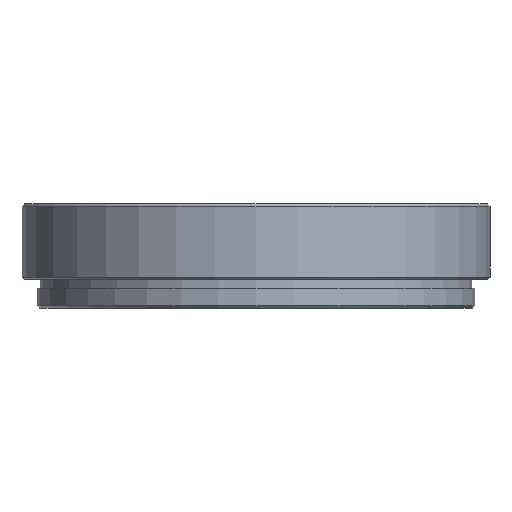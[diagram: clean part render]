
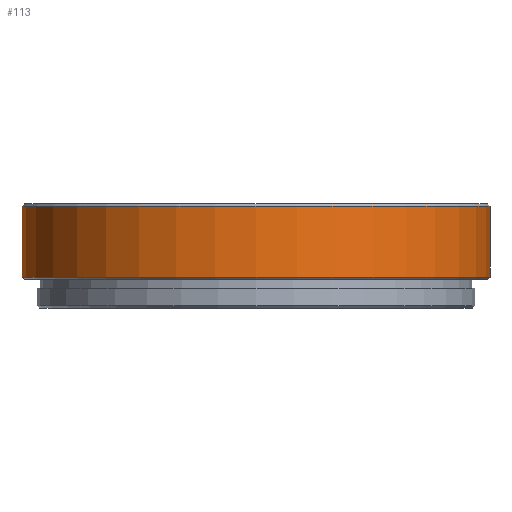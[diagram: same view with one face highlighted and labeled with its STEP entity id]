
A CAD part, front view. The second image highlights one B-rep face of the part: STEP entity #113.
In plain terms, the highlighted cylindrical face has radius 31 mm (diameter 62 mm), a partial arc.
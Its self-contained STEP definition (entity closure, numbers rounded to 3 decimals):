
#13 = DIRECTION ( 'NONE',  ( 0., 0., 1. ) ) ;
#23 = CARTESIAN_POINT ( 'NONE',  ( 0., 0., 4.2 ) ) ;
#60 = CYLINDRICAL_SURFACE ( 'NONE', #683, 31. ) ;
#87 = EDGE_CURVE ( 'NONE', #304, #769, #776, .T. ) ;
#94 = EDGE_CURVE ( 'NONE', #432, #315, #535, .T. ) ;
#101 = CARTESIAN_POINT ( 'NONE',  ( 31., 0., -5.2 ) ) ;
#113 = ADVANCED_FACE ( 'NONE', ( #510 ), #60, .T. ) ;
#139 = ORIENTED_EDGE ( 'NONE', *, *, #795, .F. ) ;
#164 = DIRECTION ( 'NONE',  ( 0., 0., 1. ) ) ;
#168 = DIRECTION ( 'NONE',  ( 1., 0., 0. ) ) ;
#228 = AXIS2_PLACEMENT_3D ( 'NONE', #23, #456, #889 ) ;
#247 = CARTESIAN_POINT ( 'NONE',  ( 0., 0., 30.465 ) ) ;
#251 = DIRECTION ( 'NONE',  ( 0., 0., 1. ) ) ;
#286 = VECTOR ( 'NONE', #13, 1000. ) ;
#298 = ORIENTED_EDGE ( 'NONE', *, *, #599, .T. ) ;
#304 = VERTEX_POINT ( 'NONE', #530 ) ;
#315 = VERTEX_POINT ( 'NONE', #101 ) ;
#327 = LINE ( 'NONE', #354, #484 ) ;
#354 = CARTESIAN_POINT ( 'NONE',  ( 31., 0., 30.465 ) ) ;
#432 = VERTEX_POINT ( 'NONE', #652 ) ;
#456 = DIRECTION ( 'NONE',  ( 0., 0., -1. ) ) ;
#466 = LINE ( 'NONE', #882, #286 ) ;
#484 = VECTOR ( 'NONE', #485, 1000. ) ;
#485 = DIRECTION ( 'NONE',  ( 0., 0., 1. ) ) ;
#506 = EDGE_LOOP ( 'NONE', ( #139, #933, #298, #760 ) ) ;
#510 = FACE_OUTER_BOUND ( 'NONE', #506, .T. ) ;
#530 = CARTESIAN_POINT ( 'NONE',  ( 31., 0., 4.2 ) ) ;
#535 = CIRCLE ( 'NONE', #547, 31. ) ;
#547 = AXIS2_PLACEMENT_3D ( 'NONE', #742, #251, #667 ) ;
#599 = EDGE_CURVE ( 'NONE', #315, #304, #327, .T. ) ;
#652 = CARTESIAN_POINT ( 'NONE',  ( -31., 0., -5.2 ) ) ;
#661 = CARTESIAN_POINT ( 'NONE',  ( -31., 0., 4.2 ) ) ;
#667 = DIRECTION ( 'NONE',  ( 1., 0., 0. ) ) ;
#683 = AXIS2_PLACEMENT_3D ( 'NONE', #247, #164, #168 ) ;
#742 = CARTESIAN_POINT ( 'NONE',  ( 0., 0., -5.2 ) ) ;
#760 = ORIENTED_EDGE ( 'NONE', *, *, #87, .T. ) ;
#769 = VERTEX_POINT ( 'NONE', #661 ) ;
#776 = CIRCLE ( 'NONE', #228, 31. ) ;
#795 = EDGE_CURVE ( 'NONE', #432, #769, #466, .T. ) ;
#882 = CARTESIAN_POINT ( 'NONE',  ( -31., 0., 30.465 ) ) ;
#889 = DIRECTION ( 'NONE',  ( -1., 0., 0. ) ) ;
#933 = ORIENTED_EDGE ( 'NONE', *, *, #94, .T. ) ;
